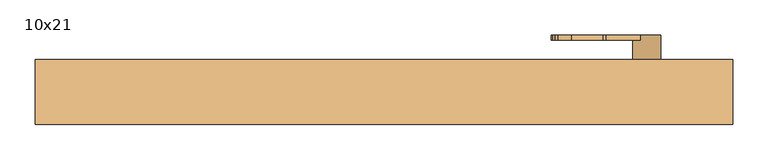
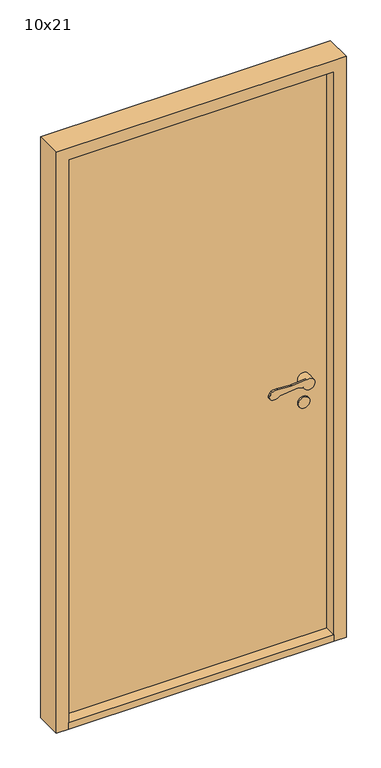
"""IFC4 building model written with IfcOpenShell, lengths in millimetres: door geometry, Innerdør Slett (Diplomat) : 10x21."""

from ifc_helpers import new_model, si_unit, point, frame, frame_2d, origin, origin_with_axes, place, context, project, spatial, polyline, circle_curve, trimmed, segment, composite_curve, outline, extrude, source, transform, mapped, element, save
from ifc_brep_helpers import plane_surface, cylinder_surface, revolved_surface, advanced_brep


def door_10x21_8401f247(model_context):
    return source(origin(), model_context, "Body", "SolidModel", [
        advanced_brep(
        [(393.9611305, -20.0, 949.1175955), (408.3841161, -20.0, 942.6204086), (446.379633, -20.0, 951.3474568), (417.2687793, -20.0, 969.1517356), (368.6891233, -20.0, 964.26032), (363.6202158, -20.0, 964.1804415), (318.8963175, -20.0, 967.2639242), (300.3175669, -20.0, 964.8810513), (295.505009, -20.0, 959.9624074), (291.8691983, -20.0, 951.8913379), (296.721536, -20.0, 938.7393398), (326.0476109, -20.0, 943.6260011), (388.8520664, -20.0, 949.9496913), (368.6891233, -12.8915284, 964.26032), (417.2687793, -12.8915284, 969.1517356), (406.379633, -12.8915284, 951.3474568), (408.3841161, -12.8915284, 942.6204086), (393.9611305, -12.8915284, 949.1175955), (388.8520664, -12.8915284, 949.9496913), (326.0476109, -12.8915284, 943.6260011), (296.721536, -12.8915284, 938.7393398), (291.8691983, -12.8915284, 951.8913379), (295.505009, -12.8915284, 959.9624074), (300.3175669, -12.8915284, 964.8810513), (318.8963175, -12.8915284, 967.2639242), (363.6202158, -12.8915284, 964.1804415), (446.379633, 15.0, 951.3474568), (406.379633, 15.0, 951.3474568)],
        [
            (0, 1),
            (1, 2, circle_curve(frame((426.379633, -20.0, 951.3474568), z_axis=(0.0, -1.0, 0.0), x_axis=(-1.0, 0.0, 0.0)), 20.0)),
            (2, 3, circle_curve(frame((426.379633, -20.0, 951.3474568), z_axis=(0.0, -1.0, 0.0), x_axis=(-1.0, 0.0, 0.0)), 20.0)),
            (3, 4),
            (4, 5, circle_curve(frame((365.683663, -20.0, 994.1093938), z_axis=(0.0, 1.0, 0.0), x_axis=(-0.9949691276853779, 0.0, -0.10018200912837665)), 30.0)),
            (5, 6),
            (6, 7, circle_curve(frame((313.2326797, -20.0, 937.8033877), z_axis=(0.0, -1.0, 0.0), x_axis=(-0.9949691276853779, 0.0, -0.10018200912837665)), 30.0)),
            (7, 8, circle_curve(frame((304.6226045, -20.0, 955.8551634), z_axis=(0.0, -1.0, 0.0), x_axis=(-0.9949691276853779, 0.0, -0.10018200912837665)), 10.0)),
            (8, 9),
            (9, 10, circle_curve(frame((300.9867937, -20.0, 947.7840939), z_axis=(0.0, -1.0, 0.0), x_axis=(-0.9949691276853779, 0.0, -0.10018200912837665)), 10.0)),
            (10, 11, circle_curve(frame((307.8569644, -20.0, 962.352734), z_axis=(0.0, -1.0, 0.0), x_axis=(-0.9949691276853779, 0.0, -0.10018200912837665)), 26.1072815)),
            (11, 12),
            (12, 0, circle_curve(frame((389.8538865, -20.0, 940.0), z_axis=(0.0, 1.0, 0.0), x_axis=(-0.9949691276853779, 0.0, -0.10018200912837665)), 10.0)),
            (13, 14),
            (14, 15, circle_curve(frame((426.379633, -12.8915284, 951.3474568), z_axis=(0.0, -1.0, 0.0), x_axis=(-1.0, 0.0, 0.0)), 20.0)),
            (15, 16, circle_curve(frame((426.379633, -12.8915284, 951.3474568), z_axis=(0.0, -1.0, 0.0), x_axis=(-1.0, 0.0, 0.0)), 20.0)),
            (16, 17),
            (17, 18, circle_curve(frame((389.8538865, -12.8915284, 940.0), z_axis=(0.0, -1.0, 0.0), x_axis=(-0.9949691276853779, 0.0, -0.10018200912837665)), 10.0)),
            (18, 19),
            (19, 20, circle_curve(frame((307.8569644, -12.8915284, 962.352734), z_axis=(0.0, 1.0, 0.0), x_axis=(-0.9949691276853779, 0.0, -0.10018200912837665)), 26.1072815)),
            (20, 21, circle_curve(frame((300.9867937, -12.8915284, 947.7840939), z_axis=(0.0, 1.0, 0.0), x_axis=(-0.9949691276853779, 0.0, -0.10018200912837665)), 10.0)),
            (21, 22),
            (22, 23, circle_curve(frame((304.6226045, -12.8915284, 955.8551634), z_axis=(0.0, 1.0, 0.0), x_axis=(-0.9949691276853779, 0.0, -0.10018200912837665)), 10.0)),
            (23, 24, circle_curve(frame((313.2326797, -12.8915284, 937.8033877), z_axis=(0.0, 1.0, 0.0), x_axis=(-0.9949691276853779, 0.0, -0.10018200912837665)), 30.0)),
            (24, 25),
            (25, 13, circle_curve(frame((365.683663, -12.8915284, 994.1093938), z_axis=(0.0, -1.0, 0.0), x_axis=(-0.9949691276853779, 0.0, -0.10018200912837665)), 30.0)),
            (3, 14),
            (13, 4),
            (16, 1),
            (0, 17),
            (12, 18),
            (11, 19),
            (10, 20),
            (9, 21),
            (8, 22),
            (7, 23),
            (6, 24),
            (5, 25),
            (26, 27, circle_curve(frame((426.379633, 15.0, 951.3474568), z_axis=(0.0, 1.0, 0.0), x_axis=(-1.0, 0.0, 0.0)), 20.0)),
            (27, 26, circle_curve(frame((426.379633, 15.0, 951.3474568), z_axis=(0.0, 1.0, 0.0), x_axis=(-1.0, 0.0, 0.0)), 20.0)),
            (26, 2),
            (15, 27),
        ],
        [
            plane_surface(frame((417.6960588, -20.0, 969.1947577), z_axis=(0.0, -1.0000000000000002, 0.0), x_axis=(0.9949691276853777, 0.0, 0.10018200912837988))),
            plane_surface(frame((417.6960588, -12.8915284, 969.1947577), z_axis=(0.0, 1.0000000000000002, 0.0), x_axis=(-0.9949691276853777, 0.0, -0.10018200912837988))),
            plane_surface(frame((368.6891233, -20.0, 964.26032), z_axis=(-0.10018200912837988, 0.0, 0.9949691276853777), x_axis=(0.0, 1.0, 0.0))),
            plane_surface(frame((426.9687366, -20.0, 934.2485115), z_axis=(-0.41072439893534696, 0.0, -0.91175954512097), x_axis=(0.0, 1.0, 0.0))),
            revolved_surface(polyline([(379.9041952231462, -12.8915284, 938.9981799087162), (379.9041952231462, -20.0, 938.9981799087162)]), (389.8538865, -12.8915284, 940.0), (0.0, 1.0, 0.0)),
            plane_surface(frame((388.8520664, -20.0, 949.9496913), z_axis=(0.10018200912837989, 0.0, -0.9949691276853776), x_axis=(0.0, 1.0, 0.0))),
            cylinder_surface(frame((307.8569644, -12.8915284, 962.352734), z_axis=(0.0, -1.0, 0.0), x_axis=(-0.9949691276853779, 0.0, -0.10018200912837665)), 26.1072815),
            cylinder_surface(frame((300.9867937, -12.8915284, 947.7840939), z_axis=(0.0, -1.0, 0.0), x_axis=(-0.9949691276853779, 0.0, -0.10018200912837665)), 10.0),
            plane_surface(frame((291.8691983, -20.0, 951.8913379), z_axis=(-0.9117595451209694, 0.0, 0.41072439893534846), x_axis=(0.0, 1.0, 0.0))),
            cylinder_surface(frame((304.6226045, -12.8915284, 955.8551634), z_axis=(0.0, -1.0, 0.0), x_axis=(-0.9949691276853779, 0.0, -0.10018200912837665)), 10.0),
            cylinder_surface(frame((313.2326797, -12.8915284, 937.8033877), z_axis=(0.0, -1.0, 0.0), x_axis=(-0.9949691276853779, 0.0, -0.10018200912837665)), 30.0),
            plane_surface(frame((318.8963175, -20.0, 967.2639242), z_axis=(0.06878157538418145, 0.0, 0.9976317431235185), x_axis=(0.0, 1.0, 0.0))),
            revolved_surface(polyline([(335.8345891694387, -12.8915284, 991.1039335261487), (335.8345891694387, -20.0, 991.1039335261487)]), (365.683663, -12.8915284, 994.1093938), (0.0, 1.0, 0.0)),
            plane_surface(frame((406.379633, 15.0, 951.3474568), z_axis=(0.0, 1.0, 0.0), x_axis=(0.0, 0.0, -1.0))),
            cylinder_surface(frame((426.379633, 15.0, 951.3474568), z_axis=(0.0, -1.0, 0.0), x_axis=(-1.0, 0.0, 0.0)), 20.0),
        ],
        [
            (0, [[1, 2, 3, 4, 5, 6, 7, 8, 9, 10, 11, 12, 13]]),
            (1, [[14, 15, 16, 17, 18, 19, 20, 21, 22, 23, 24, 25, 26]]),
            (2, [[-4, 27, -14, 28]]),
            (3, [[-17, 29, -1, 30]]),
            (4, [[31, -18, -30, -13]]),
            (5, [[32, -19, -31, -12]]),
            (6, [[33, -20, -32, -11]]),
            (7, [[34, -21, -33, -10]]),
            (8, [[35, -22, -34, -9]]),
            (9, [[36, -23, -35, -8]]),
            (10, [[37, -24, -36, -7]]),
            (11, [[38, -25, -37, -6]]),
            (12, [[-28, -26, -38, -5]]),
            (13, [[39, 40]]),
            (14, [[41, -2, -29, -16, 42, -39]]),
            (14, [[-42, -15, -27, -3, -41, -40]]),
        ],
    ),
        extrude(outline(composite_curve([segment(trimmed(circle_curve(frame_2d((866.3474568, 426.379633)), 20.0), [point((866.3474568, 446.379633))], [point((866.3474568, 406.379633))], False, "CARTESIAN"), True, "CONTINUOUS"), segment(trimmed(circle_curve(frame_2d((866.3474568, 426.379633)), 20.0), [point((866.3474568, 406.379633))], [point((866.3474568, 446.379633))], False, "CARTESIAN"), True, "CONTINUOUS")], self_intersect=False)), frame((0.0, 10.0, 0.0), z_axis=(0.0, 1.0, 0.0), x_axis=(0.0, 0.0, 1.0)), (0.0, 0.0, 1.0), 5.0),
        advanced_brep(
        [(393.9611305, 100.0, 949.1175955), (388.8520664, 100.0, 949.9496913), (326.0476109, 100.0, 943.6260011), (296.721536, 100.0, 938.7393398), (291.8691983, 100.0, 951.8913379), (295.505009, 100.0, 959.9624074), (300.3175669, 100.0, 964.8810513), (318.8963175, 100.0, 967.2639242), (363.6202158, 100.0, 964.1804415), (368.6891233, 100.0, 964.26032), (417.2687793, 100.0, 969.1517356), (446.379633, 100.0, 951.3474568), (408.3841161, 100.0, 942.6204086), (368.6891233, 92.8915284, 964.26032), (363.6202158, 92.8915284, 964.1804415), (318.8963175, 92.8915284, 967.2639242), (300.3175669, 92.8915284, 964.8810513), (295.505009, 92.8915284, 959.9624074), (291.8691983, 92.8915284, 951.8913379), (296.721536, 92.8915284, 938.7393398), (326.0476109, 92.8915284, 943.6260011), (388.8520664, 92.8915284, 949.9496913), (393.9611305, 92.8915284, 949.1175955), (408.3841161, 92.8915284, 942.6204086), (406.379633, 92.8915284, 951.3474568), (417.2687793, 92.8915284, 969.1517356), (446.379633, 65.0, 951.3474568), (406.379633, 65.0, 951.3474568)],
        [
            (0, 1, circle_curve(frame((389.8538865, 100.0, 940.0), z_axis=(0.0, -1.0, 0.0), x_axis=(-0.9949691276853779, 0.0, -0.10018200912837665)), 10.0)),
            (1, 2),
            (2, 3, circle_curve(frame((307.8569644, 100.0, 962.352734), z_axis=(0.0, 1.0, 0.0), x_axis=(-0.9949691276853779, 0.0, -0.10018200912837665)), 26.1072815)),
            (3, 4, circle_curve(frame((300.9867937, 100.0, 947.7840939), z_axis=(0.0, 1.0, 0.0), x_axis=(-0.9949691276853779, 0.0, -0.10018200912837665)), 10.0)),
            (4, 5),
            (5, 6, circle_curve(frame((304.6226045, 100.0, 955.8551634), z_axis=(0.0, 1.0, 0.0), x_axis=(-0.9949691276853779, 0.0, -0.10018200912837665)), 10.0)),
            (6, 7, circle_curve(frame((313.2326797, 100.0, 937.8033877), z_axis=(0.0, 1.0, 0.0), x_axis=(-0.9949691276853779, 0.0, -0.10018200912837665)), 30.0)),
            (7, 8),
            (8, 9, circle_curve(frame((365.683663, 100.0, 994.1093938), z_axis=(0.0, -1.0, 0.0), x_axis=(-0.9949691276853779, 0.0, -0.10018200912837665)), 30.0)),
            (9, 10),
            (10, 11, circle_curve(frame((426.379633, 100.0, 951.3474568), z_axis=(0.0, 1.0, 0.0), x_axis=(-1.0, 0.0, 0.0)), 20.0)),
            (11, 12, circle_curve(frame((426.379633, 100.0, 951.3474568), z_axis=(0.0, 1.0, 0.0), x_axis=(-1.0, 0.0, 0.0)), 20.0)),
            (12, 0),
            (13, 14, circle_curve(frame((365.683663, 92.8915284, 994.1093938), z_axis=(0.0, 1.0, 0.0), x_axis=(-0.9949691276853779, 0.0, -0.10018200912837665)), 30.0)),
            (14, 15),
            (15, 16, circle_curve(frame((313.2326797, 92.8915284, 937.8033877), z_axis=(0.0, -1.0, 0.0), x_axis=(-0.9949691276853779, 0.0, -0.10018200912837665)), 30.0)),
            (16, 17, circle_curve(frame((304.6226045, 92.8915284, 955.8551634), z_axis=(0.0, -1.0, 0.0), x_axis=(-0.9949691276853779, 0.0, -0.10018200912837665)), 10.0)),
            (17, 18),
            (18, 19, circle_curve(frame((300.9867937, 92.8915284, 947.7840939), z_axis=(0.0, -1.0, 0.0), x_axis=(-0.9949691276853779, 0.0, -0.10018200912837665)), 10.0)),
            (19, 20, circle_curve(frame((307.8569644, 92.8915284, 962.352734), z_axis=(0.0, -1.0, 0.0), x_axis=(-0.9949691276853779, 0.0, -0.10018200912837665)), 26.1072815)),
            (20, 21),
            (21, 22, circle_curve(frame((389.8538865, 92.8915284, 940.0), z_axis=(0.0, 1.0, 0.0), x_axis=(-0.9949691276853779, 0.0, -0.10018200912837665)), 10.0)),
            (22, 23),
            (23, 24, circle_curve(frame((426.379633, 92.8915284, 951.3474568), z_axis=(0.0, 1.0, 0.0), x_axis=(-1.0, 0.0, 0.0)), 20.0)),
            (24, 25, circle_curve(frame((426.379633, 92.8915284, 951.3474568), z_axis=(0.0, 1.0, 0.0), x_axis=(-1.0, 0.0, 0.0)), 20.0)),
            (25, 13),
            (9, 13),
            (25, 10),
            (22, 0),
            (12, 23),
            (21, 1),
            (20, 2),
            (19, 3),
            (18, 4),
            (17, 5),
            (16, 6),
            (15, 7),
            (14, 8),
            (26, 27, circle_curve(frame((426.379633, 65.0, 951.3474568), z_axis=(0.0, -1.0, 0.0), x_axis=(-1.0, 0.0, 0.0)), 20.0)),
            (27, 26, circle_curve(frame((426.379633, 65.0, 951.3474568), z_axis=(0.0, -1.0, 0.0), x_axis=(-1.0, 0.0, 0.0)), 20.0)),
            (27, 24),
            (11, 26),
        ],
        [
            plane_surface(frame((417.6960588, 100.0, 969.1947577), z_axis=(0.0, 1.0000000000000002, 0.0), x_axis=(0.9949691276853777, 0.0, 0.10018200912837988))),
            plane_surface(frame((417.6960588, 92.8915284, 969.1947577), z_axis=(0.0, -1.0000000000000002, 0.0), x_axis=(-0.9949691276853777, 0.0, -0.10018200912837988))),
            plane_surface(frame((368.6891233, 100.0, 964.26032), z_axis=(-0.10018200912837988, 0.0, 0.9949691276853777), x_axis=(0.0, -1.0, 0.0))),
            plane_surface(frame((426.9687366, 100.0, 934.2485115), z_axis=(-0.41072439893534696, 0.0, -0.91175954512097), x_axis=(0.0, -1.0, 0.0))),
            revolved_surface(polyline([(379.9041952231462, 92.8915284, 938.9981799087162), (379.9041952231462, 100.0, 938.9981799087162)]), (389.8538865, 92.8915284, 940.0), (0.0, -1.0, 0.0)),
            plane_surface(frame((388.8520664, 100.0, 949.9496913), z_axis=(0.10018200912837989, 0.0, -0.9949691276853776), x_axis=(0.0, -1.0, 0.0))),
            cylinder_surface(frame((307.8569644, 92.8915284, 962.352734), z_axis=(0.0, 1.0, 0.0), x_axis=(-0.9949691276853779, 0.0, -0.10018200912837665)), 26.1072815),
            cylinder_surface(frame((300.9867937, 92.8915284, 947.7840939), z_axis=(0.0, 1.0, 0.0), x_axis=(-0.9949691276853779, 0.0, -0.10018200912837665)), 10.0),
            plane_surface(frame((291.8691983, 100.0, 951.8913379), z_axis=(-0.9117595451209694, 0.0, 0.41072439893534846), x_axis=(0.0, -1.0, 0.0))),
            cylinder_surface(frame((304.6226045, 92.8915284, 955.8551634), z_axis=(0.0, 1.0, 0.0), x_axis=(-0.9949691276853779, 0.0, -0.10018200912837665)), 10.0),
            cylinder_surface(frame((313.2326797, 92.8915284, 937.8033877), z_axis=(0.0, 1.0, 0.0), x_axis=(-0.9949691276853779, 0.0, -0.10018200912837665)), 30.0),
            plane_surface(frame((318.8963175, 100.0, 967.2639242), z_axis=(0.06878157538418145, 0.0, 0.9976317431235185), x_axis=(0.0, -1.0, 0.0))),
            revolved_surface(polyline([(335.8345891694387, 92.8915284, 991.1039335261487), (335.8345891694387, 100.0, 991.1039335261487)]), (365.683663, 92.8915284, 994.1093938), (0.0, -1.0, 0.0)),
            plane_surface(frame((406.379633, 65.0, 951.3474568), z_axis=(0.0, -1.0, 0.0), x_axis=(0.0, 0.0, -1.0))),
            cylinder_surface(frame((426.379633, 65.0, 951.3474568), z_axis=(0.0, 1.0, 0.0), x_axis=(-1.0, 0.0, 0.0)), 20.0),
        ],
        [
            (0, [[1, 2, 3, 4, 5, 6, 7, 8, 9, 10, 11, 12, 13]]),
            (1, [[14, 15, 16, 17, 18, 19, 20, 21, 22, 23, 24, 25, 26]]),
            (2, [[27, -26, 28, -10]]),
            (3, [[29, -13, 30, -23]]),
            (4, [[-1, -29, -22, 31]]),
            (5, [[-2, -31, -21, 32]]),
            (6, [[-3, -32, -20, 33]]),
            (7, [[-4, -33, -19, 34]]),
            (8, [[-5, -34, -18, 35]]),
            (9, [[-6, -35, -17, 36]]),
            (10, [[-7, -36, -16, 37]]),
            (11, [[-8, -37, -15, 38]]),
            (12, [[-9, -38, -14, -27]]),
            (13, [[39, 40]]),
            (14, [[-40, 41, -24, -30, -12, 42]]),
            (14, [[-39, -42, -11, -28, -25, -41]]),
        ],
    ),
        extrude(outline(composite_curve([segment(trimmed(circle_curve(frame_2d((866.3474568, 426.379633)), 20.0), [point((866.3474568, 446.379633))], [point((866.3474568, 406.379633))], False, "CARTESIAN"), True, "CONTINUOUS"), segment(trimmed(circle_curve(frame_2d((866.3474568, 426.379633)), 20.0), [point((866.3474568, 406.379633))], [point((866.3474568, 446.379633))], False, "CARTESIAN"), True, "CONTINUOUS")], self_intersect=False)), frame((0.0, 65.0, 0.0), z_axis=(0.0, 1.0, 0.0), x_axis=(0.0, 0.0, 1.0)), (0.0, 0.0, 1.0), 5.0),
        extrude(outline(polyline([(506.379633, -27.0), (-399.620367, -27.0), (-399.620367, 65.0), (506.379633, 65.0), (506.379633, -27.0)])), origin_with_axes(), (0.0, 0.0, 1.0), 22.0),
        extrude(outline(polyline([(506.379633, 15.0), (-399.620367, 15.0), (-399.620367, 65.0), (506.379633, 65.0), (506.379633, 15.0)])), frame((0.0, 0.0, 22.0), z_axis=(0.0, 0.0, 1.0), x_axis=(1.0, 0.0, 0.0)), (0.0, 0.0, 1.0), 2031.0),
        extrude(outline(polyline([(0.0, -441.620367), (0.0, -399.620367), (2053.0, -399.620367), (2053.0, 506.379633), (0.0, 506.379633), (0.0, 548.379633), (2095.0, 548.379633), (2095.0, -441.620367), (0.0, -441.620367)])), frame((0.0, -27.0, 0.0), z_axis=(0.0, 1.0, 0.0), x_axis=(0.0, 0.0, 1.0)), (0.0, 0.0, 1.0), 92.0),
    ])


if __name__ == "__main__":
    model = new_model("IFC4")
    model_context = context("Model", 3, world=origin())
    ifc_project = project(units=[si_unit("LENGTHUNIT", "METRE", prefix="MILLI")], contexts=[model_context])
    site = spatial("IfcSite", under=ifc_project)
    building = spatial("IfcBuilding", under=site)
    placement = place(None, origin())
    door_10x21_shape = door_10x21_8401f247(model_context)
    element("IfcDoor", 1, ObjectType="Innerdør Slett (Diplomat) : 10x21", at=placement, inside=building, context=model_context, shape_type="MappedRepresentation", body=[
        mapped(door_10x21_shape, transform((0.0, 0.0, 0.0), x_axis=(1.0, 0.0, 0.0), y_axis=(0.0, 1.0, 0.0), z_axis=(0.0, 0.0, 1.0))),
    ])
    save(model, "model.ifc")
